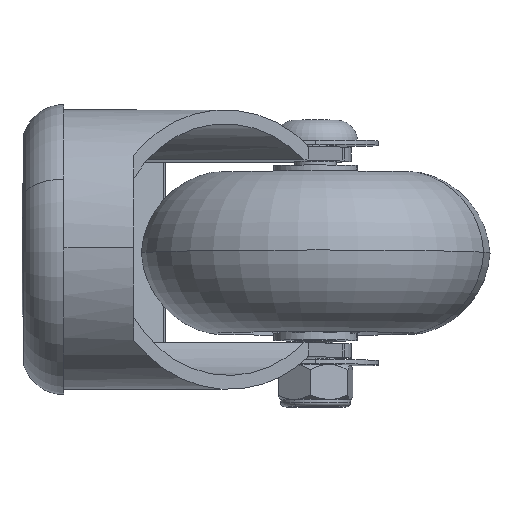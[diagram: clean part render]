
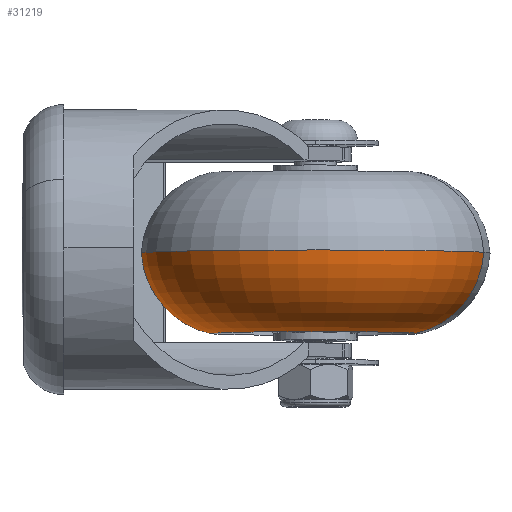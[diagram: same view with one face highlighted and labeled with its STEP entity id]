
A CAD part, left-side view. The second image highlights one B-rep face of the part: STEP entity #31219.
In plain terms, the highlighted toroidal (fillet/blend) face has major radius 12.523 mm and minor radius 12.5 mm.
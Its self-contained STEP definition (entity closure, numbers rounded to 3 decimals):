
#825 = ORIENTED_EDGE ( 'NONE', *, *, #31098, .F. ) ;
#1756 = CARTESIAN_POINT ( 'NONE',  ( 0., 0.752, -12.523 ) ) ;
#2845 = CARTESIAN_POINT ( 'NONE',  ( 0., 0.752, 12.523 ) ) ;
#3455 = VERTEX_POINT ( 'NONE', #12128 ) ;
#5471 = DIRECTION ( 'NONE',  ( 0., 0., 1. ) ) ;
#5628 = CARTESIAN_POINT ( 'NONE',  ( 0., -11.5, 0. ) ) ;
#6502 = CIRCLE ( 'NONE', #37104, 12.5 ) ;
#7889 = CARTESIAN_POINT ( 'NONE',  ( 0., 0., 0. ) ) ;
#10294 = CARTESIAN_POINT ( 'NONE',  ( 0., 0., 25. ) ) ;
#10387 = DIRECTION ( 'NONE',  ( 0., 0., -1. ) ) ;
#10647 = EDGE_CURVE ( 'NONE', #3455, #17767, #17963, .T. ) ;
#12128 = CARTESIAN_POINT ( 'NONE',  ( 0., -11.5, 15. ) ) ;
#12240 = DIRECTION ( 'NONE',  ( 0., 1., 0. ) ) ;
#12562 = AXIS2_PLACEMENT_3D ( 'NONE', #2845, #28949, #5471 ) ;
#13687 = TOROIDAL_SURFACE ( 'NONE', #34672, 12.523, 12.5 ) ;
#13778 = EDGE_LOOP ( 'NONE', ( #32170, #32893, #15006, #825 ) ) ;
#14355 = CARTESIAN_POINT ( 'NONE',  ( 0., -11.5, -15. ) ) ;
#15006 = ORIENTED_EDGE ( 'NONE', *, *, #25095, .T. ) ;
#15996 = CIRCLE ( 'NONE', #33382, 15. ) ;
#17767 = VERTEX_POINT ( 'NONE', #10294 ) ;
#17963 = CIRCLE ( 'NONE', #12562, 12.5 ) ;
#18502 = VERTEX_POINT ( 'NONE', #20358 ) ;
#20358 = CARTESIAN_POINT ( 'NONE',  ( 0., 0., -25. ) ) ;
#22974 = FACE_OUTER_BOUND ( 'NONE', #13778, .T. ) ;
#24347 = CIRCLE ( 'NONE', #33333, 25. ) ;
#24680 = DIRECTION ( 'NONE',  ( 1., 0., 0. ) ) ;
#24901 = VERTEX_POINT ( 'NONE', #14355 ) ;
#25095 = EDGE_CURVE ( 'NONE', #17767, #18502, #24347, .T. ) ;
#26482 = EDGE_CURVE ( 'NONE', #3455, #24901, #15996, .T. ) ;
#26879 = CARTESIAN_POINT ( 'NONE',  ( 0., 0.752, 0. ) ) ;
#28539 = DIRECTION ( 'NONE',  ( 0., 0., -1. ) ) ;
#28949 = DIRECTION ( 'NONE',  ( -1., 0., 0. ) ) ;
#30065 = DIRECTION ( 'NONE',  ( 0., 0., -1. ) ) ;
#31098 = EDGE_CURVE ( 'NONE', #24901, #18502, #6502, .T. ) ;
#31163 = DIRECTION ( 'NONE',  ( 0., 0., -1. ) ) ;
#31219 = ADVANCED_FACE ( 'NONE', ( #22974 ), #13687, .T. ) ;
#32170 = ORIENTED_EDGE ( 'NONE', *, *, #26482, .F. ) ;
#32893 = ORIENTED_EDGE ( 'NONE', *, *, #10647, .T. ) ;
#33333 = AXIS2_PLACEMENT_3D ( 'NONE', #7889, #37172, #31163 ) ;
#33382 = AXIS2_PLACEMENT_3D ( 'NONE', #5628, #35054, #28539 ) ;
#34672 = AXIS2_PLACEMENT_3D ( 'NONE', #26879, #12240, #30065 ) ;
#35054 = DIRECTION ( 'NONE',  ( 0., -1., 0. ) ) ;
#37104 = AXIS2_PLACEMENT_3D ( 'NONE', #1756, #24680, #10387 ) ;
#37172 = DIRECTION ( 'NONE',  ( 0., -1., 0. ) ) ;
